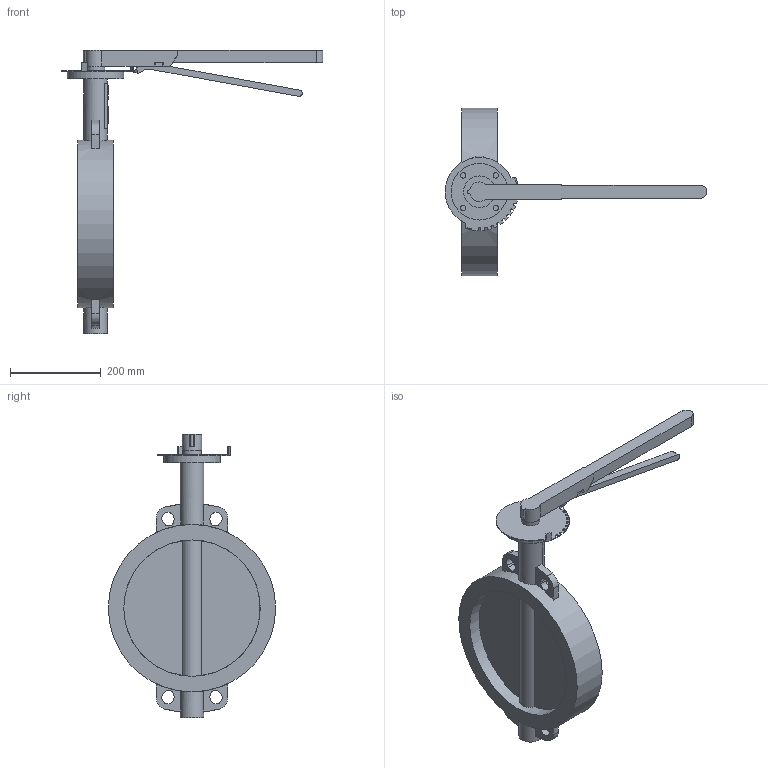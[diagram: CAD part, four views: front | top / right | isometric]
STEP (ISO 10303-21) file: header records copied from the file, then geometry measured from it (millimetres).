
FILE_DESCRIPTION(('STEP AP203'), '1');
FILE_NAME('Çàòâîð 017W.Z(÷óãóí) DN300 PN10_16 ðóêîÿòêà', '', ('UNSPECIFIED'), ('UNSPECIFIED'), 'ASCON STEP Converter 1.6', 'ASCON Math Kernel', '');
FILE_SCHEMA(('CONFIG_CONTROL_DESIGN'));
Length unit declared in the file: millimetre
Bounding box: 578.47 x 370 x 626 mm (x, y, z)
Volume: 625568.9 mm3; surface area: 580589.8 mm2
Topology: 1 solids, 2 shells, 917 faces, 2729 edges, 1763 vertices
Faces by surface type: cylinder 678, plane 239
Full cylindrical faces by diameter (mm): 12 x4, 31.6 x1, 41 x1, 52 x2, 70 x1, 125 x1, 301.5 x2, 370 x1
Entity records: 39365 total; most frequent: CARTESIAN_POINT 6067, DIRECTION 5963, ORIENTED_EDGE 5356, EDGE_CURVE 2717, AXIS2_PLACEMENT_3D 2348, VERTEX_POINT 1763, CIRCLE 1430, LINE 1267
